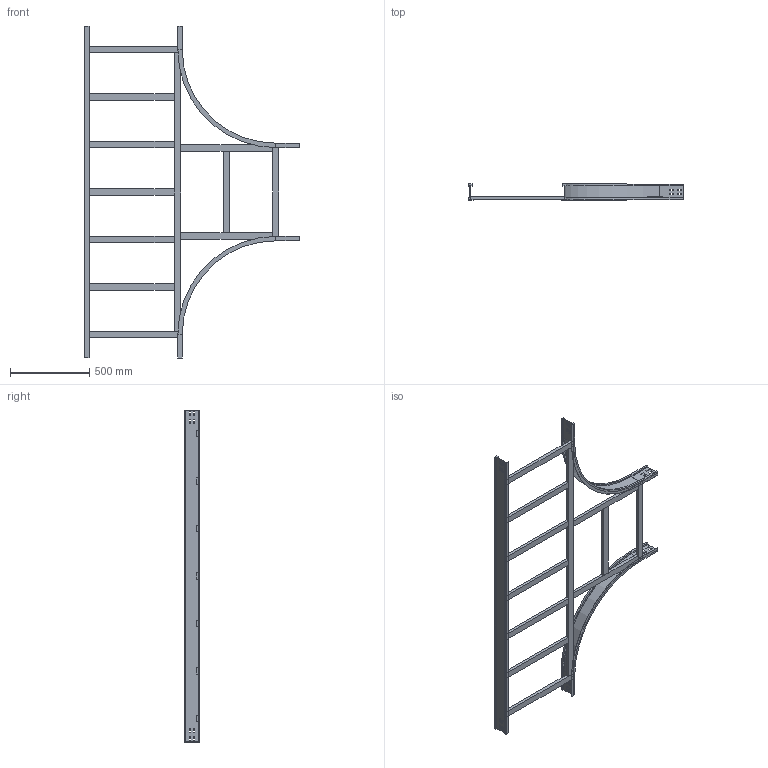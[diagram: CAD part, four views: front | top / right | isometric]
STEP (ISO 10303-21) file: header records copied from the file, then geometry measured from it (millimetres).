
FILE_DESCRIPTION (( 'STEP AP214' ), '1' );
FILE_NAME ('15S6D600.step', '2025-02-21T16:13:09', ( '' ), ( '' ), 'SwSTEP 2.0', 'SolidWorks 2023', '' );
FILE_SCHEMA (( 'AUTOMOTIVE_DESIGN' ));
Length unit declared in the file: millimetre
Products named in the file (8): 15S6D600; LONGH.INTERNO 90°_H100_R600; TRAVERSINO_VERT_R600; LONGH.RETT_H100_R600+600; TRAVERSINO_LONG._R600+600; TRAVERSINO_600; TRAVERSINO_COPPIA_600; TRAVERSINO_INTERMEDIO_R600+600
Assembly tree (15 placements, depth 2):
  15S6D600
    LONGH.INTERNO 90°_H100_R600  x2
    LONGH.RETT_H100_R600+600
    TRAVERSINO_600  x3
    TRAVERSINO_LONG._R600+600
    TRAVERSINO_INTERMEDIO_R600+600  x5
    TRAVERSINO_VERT_R600  x2
    TRAVERSINO_COPPIA_600
Bounding box: 1359 x 100 x 2100 mm (x, y, z)
Volume: 8913676 mm3; surface area: 2346850.5 mm2
Topology: 15 solids, 15 shells, 258 faces, 636 edges, 408 vertices
Faces by surface type: plane 246, cylinder 12
Entity records: 4677 total; most frequent: CARTESIAN_POINT 776, ORIENTED_EDGE 744, DIRECTION 712, EDGE_CURVE 372, LINE 360, VECTOR 360, VERTEX_POINT 240, EDGE_LOOP 178
